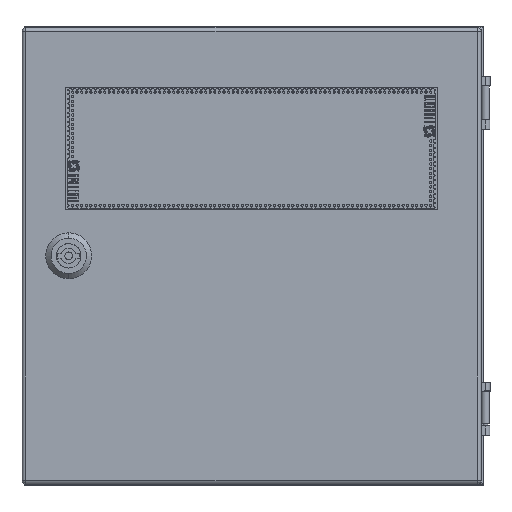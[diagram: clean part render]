
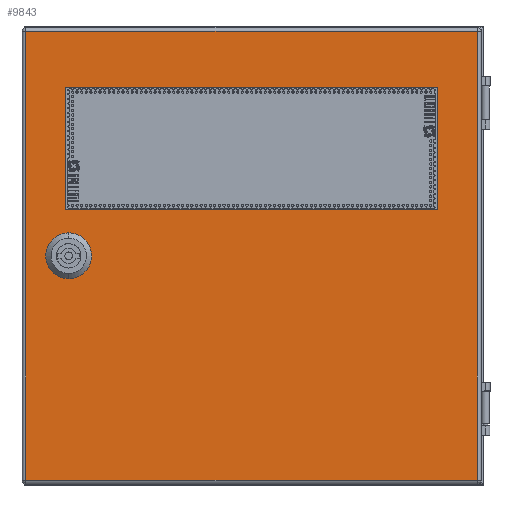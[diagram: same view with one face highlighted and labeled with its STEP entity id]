
A CAD part, top view. The second image highlights one B-rep face of the part: STEP entity #9843.
In plain terms, the highlighted planar face has unit normal (0, 0, 1).
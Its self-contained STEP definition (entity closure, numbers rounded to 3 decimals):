
#9843 = ADVANCED_FACE ( 'NONE', ( #70360, #70361, #70351 ), #57781, .T. ) ;
#16696 = AXIS2_PLACEMENT_3D ( 'NONE', #54778, #54782, #54783 ) ;
#16698 = AXIS2_PLACEMENT_3D ( 'NONE', #54784, #54788, #54789 ) ;
#16705 = VECTOR ( 'NONE', #54763, 1000. ) ;
#16706 = VECTOR ( 'NONE', #54766, 1000. ) ;
#16707 = VECTOR ( 'NONE', #54769, 1000. ) ;
#16708 = AXIS2_PLACEMENT_3D ( 'NONE', #54745, #54776, #54777 ) ;
#16709 = VECTOR ( 'NONE', #54772, 1000. ) ;
#16710 = AXIS2_PLACEMENT_3D ( 'NONE', #54790, #54791, #54792 ) ;
#16711 = VECTOR ( 'NONE', #54775, 1000. ) ;
#16712 = VECTOR ( 'NONE', #54781, 1000. ) ;
#16713 = VECTOR ( 'NONE', #54787, 1000. ) ;
#16714 = VECTOR ( 'NONE', #54796, 1000. ) ;
#16715 = VECTOR ( 'NONE', #54799, 1000. ) ;
#16716 = VECTOR ( 'NONE', #54802, 1000. ) ;
#16717 = VECTOR ( 'NONE', #54805, 1000. ) ;
#16718 = VECTOR ( 'NONE', #54808, 1000. ) ;
#20430 = VERTEX_POINT ( 'NONE', #22854 ) ;
#20431 = VERTEX_POINT ( 'NONE', #22855 ) ;
#20432 = VERTEX_POINT ( 'NONE', #22856 ) ;
#20433 = VERTEX_POINT ( 'NONE', #22857 ) ;
#20434 = VERTEX_POINT ( 'NONE', #22858 ) ;
#20435 = VERTEX_POINT ( 'NONE', #22859 ) ;
#20436 = VERTEX_POINT ( 'NONE', #22860 ) ;
#20437 = VERTEX_POINT ( 'NONE', #22861 ) ;
#20438 = VERTEX_POINT ( 'NONE', #22862 ) ;
#20439 = VERTEX_POINT ( 'NONE', #22863 ) ;
#20440 = VERTEX_POINT ( 'NONE', #22864 ) ;
#20441 = VERTEX_POINT ( 'NONE', #22865 ) ;
#20442 = VERTEX_POINT ( 'NONE', #22866 ) ;
#20443 = VERTEX_POINT ( 'NONE', #22867 ) ;
#20444 = VERTEX_POINT ( 'NONE', #22868 ) ;
#20445 = VERTEX_POINT ( 'NONE', #22869 ) ;
#22854 = CARTESIAN_POINT ( 'NONE',  ( 147.6, 146.6, 14. ) ) ;
#22855 = CARTESIAN_POINT ( 'NONE',  ( 147.6, -146.6, 14. ) ) ;
#22856 = CARTESIAN_POINT ( 'NONE',  ( -147.6, -146.6, 14. ) ) ;
#22857 = CARTESIAN_POINT ( 'NONE',  ( -147.6, 146.6, 14. ) ) ;
#22858 = CARTESIAN_POINT ( 'NONE',  ( -129.6, -5.499, 14. ) ) ;
#22859 = CARTESIAN_POINT ( 'NONE',  ( -124.999, -10.1, 14. ) ) ;
#22860 = CARTESIAN_POINT ( 'NONE',  ( -114.001, -10.1, 14. ) ) ;
#22861 = CARTESIAN_POINT ( 'NONE',  ( -109.4, -5.499, 14. ) ) ;
#22862 = CARTESIAN_POINT ( 'NONE',  ( -109.4, 5.499, 14. ) ) ;
#22863 = CARTESIAN_POINT ( 'NONE',  ( -114.001, 10.1, 14. ) ) ;
#22864 = CARTESIAN_POINT ( 'NONE',  ( -124.999, 10.1, 14. ) ) ;
#22865 = CARTESIAN_POINT ( 'NONE',  ( -129.6, 5.499, 14. ) ) ;
#22866 = CARTESIAN_POINT ( 'NONE',  ( -121.5, 110., 14. ) ) ;
#22867 = CARTESIAN_POINT ( 'NONE',  ( -121.5, 30., 14. ) ) ;
#22868 = CARTESIAN_POINT ( 'NONE',  ( 121.5, 110., 14. ) ) ;
#22869 = CARTESIAN_POINT ( 'NONE',  ( 121.5, 30., 14. ) ) ;
#28039 = EDGE_LOOP ( 'NONE', ( #35352, #35354, #35353, #35355 ) ) ;
#28040 = EDGE_LOOP ( 'NONE', ( #35344, #35346, #35345, #35347, #35348, #35349, #35350, #35351 ) ) ;
#28041 = EDGE_LOOP ( 'NONE', ( #35340, #35342, #35341, #35343 ) ) ;
#35340 = ORIENTED_EDGE ( 'NONE', *, *, #38472, .F. ) ;
#35341 = ORIENTED_EDGE ( 'NONE', *, *, #38471, .F. ) ;
#35342 = ORIENTED_EDGE ( 'NONE', *, *, #38473, .F. ) ;
#35343 = ORIENTED_EDGE ( 'NONE', *, *, #38469, .F. ) ;
#35344 = ORIENTED_EDGE ( 'NONE', *, *, #38468, .T. ) ;
#35345 = ORIENTED_EDGE ( 'NONE', *, *, #38467, .T. ) ;
#35346 = ORIENTED_EDGE ( 'NONE', *, *, #38470, .T. ) ;
#35347 = ORIENTED_EDGE ( 'NONE', *, *, #38466, .T. ) ;
#35348 = ORIENTED_EDGE ( 'NONE', *, *, #38465, .T. ) ;
#35349 = ORIENTED_EDGE ( 'NONE', *, *, #38464, .T. ) ;
#35350 = ORIENTED_EDGE ( 'NONE', *, *, #38463, .T. ) ;
#35351 = ORIENTED_EDGE ( 'NONE', *, *, #38461, .T. ) ;
#35352 = ORIENTED_EDGE ( 'NONE', *, *, #38460, .T. ) ;
#35353 = ORIENTED_EDGE ( 'NONE', *, *, #38459, .T. ) ;
#35354 = ORIENTED_EDGE ( 'NONE', *, *, #38462, .T. ) ;
#35355 = ORIENTED_EDGE ( 'NONE', *, *, #38458, .T. ) ;
#38458 = EDGE_CURVE ( 'NONE', #20430, #20433, #54761, .T. ) ;
#38459 = EDGE_CURVE ( 'NONE', #20431, #20430, #54764, .T. ) ;
#38460 = EDGE_CURVE ( 'NONE', #20433, #20432, #54767, .T. ) ;
#38461 = EDGE_CURVE ( 'NONE', #20434, #20441, #54770, .T. ) ;
#38462 = EDGE_CURVE ( 'NONE', #20432, #20431, #54773, .T. ) ;
#38463 = EDGE_CURVE ( 'NONE', #20435, #20434, #60878, .T. ) ;
#38464 = EDGE_CURVE ( 'NONE', #20436, #20435, #54779, .T. ) ;
#38465 = EDGE_CURVE ( 'NONE', #20437, #20436, #60880, .T. ) ;
#38466 = EDGE_CURVE ( 'NONE', #20438, #20437, #54785, .T. ) ;
#38467 = EDGE_CURVE ( 'NONE', #20439, #20438, #60882, .T. ) ;
#38468 = EDGE_CURVE ( 'NONE', #20441, #20440, #60884, .T. ) ;
#38469 = EDGE_CURVE ( 'NONE', #20444, #20442, #54794, .T. ) ;
#38470 = EDGE_CURVE ( 'NONE', #20440, #20439, #54797, .T. ) ;
#38471 = EDGE_CURVE ( 'NONE', #20442, #20443, #54800, .T. ) ;
#38472 = EDGE_CURVE ( 'NONE', #20445, #20444, #54803, .T. ) ;
#38473 = EDGE_CURVE ( 'NONE', #20443, #20445, #54806, .T. ) ;
#54745 = CARTESIAN_POINT ( 'NONE',  ( -119.5, 0., 14. ) ) ;
#54761 = LINE ( 'NONE', #54762, #16705 ) ;
#54762 = CARTESIAN_POINT ( 'NONE',  ( -150., 146.6, 14. ) ) ;
#54763 = DIRECTION ( 'NONE',  ( -1., 0., 0. ) ) ;
#54764 = LINE ( 'NONE', #54765, #16706 ) ;
#54765 = CARTESIAN_POINT ( 'NONE',  ( 147.6, 149., 14. ) ) ;
#54766 = DIRECTION ( 'NONE',  ( 0., 1., 0. ) ) ;
#54767 = LINE ( 'NONE', #54768, #16707 ) ;
#54768 = CARTESIAN_POINT ( 'NONE',  ( -147.6, -149., 14. ) ) ;
#54769 = DIRECTION ( 'NONE',  ( 0., -1., 0. ) ) ;
#54770 = LINE ( 'NONE', #54771, #16709 ) ;
#54771 = CARTESIAN_POINT ( 'NONE',  ( -129.6, 5.499, 14. ) ) ;
#54772 = DIRECTION ( 'NONE',  ( 0., 1., 0. ) ) ;
#54773 = LINE ( 'NONE', #54774, #16711 ) ;
#54774 = CARTESIAN_POINT ( 'NONE',  ( 150., -146.6, 14. ) ) ;
#54775 = DIRECTION ( 'NONE',  ( 1., 0., 0. ) ) ;
#54776 = DIRECTION ( 'NONE',  ( 0., 0., -1. ) ) ;
#54777 = DIRECTION ( 'NONE',  ( -1., 0., 0. ) ) ;
#54778 = CARTESIAN_POINT ( 'NONE',  ( -119.5, 0., 14. ) ) ;
#54779 = LINE ( 'NONE', #54780, #16712 ) ;
#54780 = CARTESIAN_POINT ( 'NONE',  ( -124.999, -10.1, 14. ) ) ;
#54781 = DIRECTION ( 'NONE',  ( -1., 0., 0. ) ) ;
#54782 = DIRECTION ( 'NONE',  ( 0., 0., -1. ) ) ;
#54783 = DIRECTION ( 'NONE',  ( 1., 0., 0. ) ) ;
#54784 = CARTESIAN_POINT ( 'NONE',  ( -119.5, 0., 14. ) ) ;
#54785 = LINE ( 'NONE', #54786, #16713 ) ;
#54786 = CARTESIAN_POINT ( 'NONE',  ( -109.4, 5.499, 14. ) ) ;
#54787 = DIRECTION ( 'NONE',  ( 0., -1., 0. ) ) ;
#54788 = DIRECTION ( 'NONE',  ( 0., 0., -1. ) ) ;
#54789 = DIRECTION ( 'NONE',  ( -1., 0., 0. ) ) ;
#54790 = CARTESIAN_POINT ( 'NONE',  ( -119.5, 0., 14. ) ) ;
#54791 = DIRECTION ( 'NONE',  ( 0., 0., -1. ) ) ;
#54792 = DIRECTION ( 'NONE',  ( 1., 0., 0. ) ) ;
#54794 = LINE ( 'NONE', #54795, #16714 ) ;
#54795 = CARTESIAN_POINT ( 'NONE',  ( -121.5, 110., 14. ) ) ;
#54796 = DIRECTION ( 'NONE',  ( -1., 0., 0. ) ) ;
#54797 = LINE ( 'NONE', #54798, #16715 ) ;
#54798 = CARTESIAN_POINT ( 'NONE',  ( -124.999, 10.1, 14. ) ) ;
#54799 = DIRECTION ( 'NONE',  ( 1., 0., 0. ) ) ;
#54800 = LINE ( 'NONE', #54801, #16716 ) ;
#54801 = CARTESIAN_POINT ( 'NONE',  ( -121.5, 30., 14. ) ) ;
#54802 = DIRECTION ( 'NONE',  ( 0., -1., 0. ) ) ;
#54803 = LINE ( 'NONE', #54804, #16717 ) ;
#54804 = CARTESIAN_POINT ( 'NONE',  ( 121.5, 30., 14. ) ) ;
#54805 = DIRECTION ( 'NONE',  ( 0., 1., 0. ) ) ;
#54806 = LINE ( 'NONE', #54807, #16718 ) ;
#54807 = CARTESIAN_POINT ( 'NONE',  ( -121.5, 30., 14. ) ) ;
#54808 = DIRECTION ( 'NONE',  ( 1., 0., 0. ) ) ;
#57781 = PLANE ( 'NONE',  #70348 ) ;
#57782 = CARTESIAN_POINT ( 'NONE',  ( 0., 0., 14. ) ) ;
#57783 = DIRECTION ( 'NONE',  ( 0., 0., 1. ) ) ;
#57784 = DIRECTION ( 'NONE',  ( 1., 0., 0. ) ) ;
#60878 = CIRCLE ( 'NONE', #16708, 11.5 ) ;
#60880 = CIRCLE ( 'NONE', #16696, 11.5 ) ;
#60882 = CIRCLE ( 'NONE', #16698, 11.5 ) ;
#60884 = CIRCLE ( 'NONE', #16710, 11.5 ) ;
#70348 = AXIS2_PLACEMENT_3D ( 'NONE', #57782, #57783, #57784 ) ;
#70351 = FACE_OUTER_BOUND ( 'NONE', #28039, .T. ) ;
#70360 = FACE_BOUND ( 'NONE', #28041, .T. ) ;
#70361 = FACE_BOUND ( 'NONE', #28040, .T. ) ;
